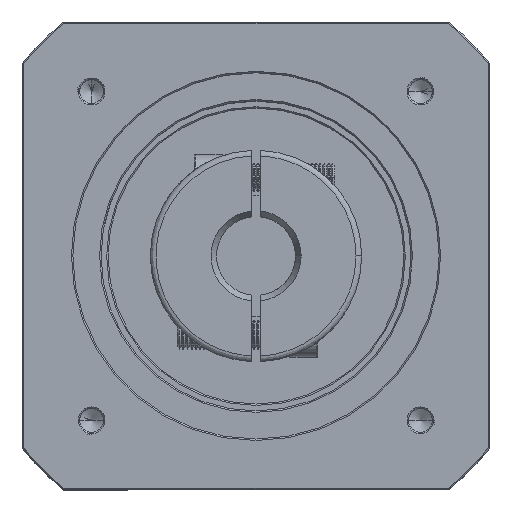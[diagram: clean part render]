
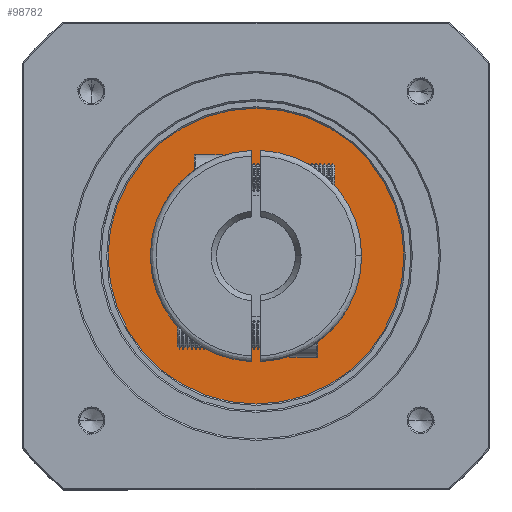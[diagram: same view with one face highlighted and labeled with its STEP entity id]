
A CAD part, top view. The second image highlights one B-rep face of the part: STEP entity #98782.
In plain terms, the highlighted planar face has unit normal (0, 0, 1).
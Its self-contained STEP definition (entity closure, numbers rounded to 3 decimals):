
#1704 = DIRECTION ( 'NONE',  ( -1., 0., 0. ) ) ;
#12298 = ORIENTED_EDGE ( 'NONE', *, *, #89596, .T. ) ;
#17337 = VERTEX_POINT ( 'NONE', #86679 ) ;
#19374 = CARTESIAN_POINT ( 'NONE',  ( -2.452, 29.911, 313.95 ) ) ;
#21595 = CARTESIAN_POINT ( 'NONE',  ( -2.452, -0.589, 313.95 ) ) ;
#21624 = AXIS2_PLACEMENT_3D ( 'NONE', #21595, #22510, #75763 ) ;
#21844 = PLANE ( 'NONE',  #60697 ) ;
#22510 = DIRECTION ( 'NONE',  ( 0., 0., -1. ) ) ;
#22901 = CIRCLE ( 'NONE', #41727, 52.5 ) ;
#25593 = FACE_BOUND ( 'NONE', #40621, .T. ) ;
#30791 = DIRECTION ( 'NONE',  ( -1., 0., 0. ) ) ;
#33568 = DIRECTION ( 'NONE',  ( 0., 0., -1. ) ) ;
#39445 = AXIS2_PLACEMENT_3D ( 'NONE', #91516, #81653, #93352 ) ;
#40621 = EDGE_LOOP ( 'NONE', ( #88877, #12298 ) ) ;
#41727 = AXIS2_PLACEMENT_3D ( 'NONE', #126243, #115969, #30791 ) ;
#48125 = VERTEX_POINT ( 'NONE', #94375 ) ;
#56609 = CIRCLE ( 'NONE', #39445, 30.5 ) ;
#57246 = EDGE_CURVE ( 'NONE', #99085, #48125, #56609, .T. ) ;
#59972 = EDGE_CURVE ( 'NONE', #134192, #17337, #22901, .T. ) ;
#60697 = AXIS2_PLACEMENT_3D ( 'NONE', #96610, #33568, #1704 ) ;
#70790 = CIRCLE ( 'NONE', #21624, 52.5 ) ;
#70824 = EDGE_CURVE ( 'NONE', #17337, #134192, #70790, .T. ) ;
#71711 = AXIS2_PLACEMENT_3D ( 'NONE', #84759, #138646, #73986 ) ;
#73986 = DIRECTION ( 'NONE',  ( 0., 1., 0. ) ) ;
#75763 = DIRECTION ( 'NONE',  ( -1., 0., 0. ) ) ;
#81653 = DIRECTION ( 'NONE',  ( 0., 0., -1. ) ) ;
#84759 = CARTESIAN_POINT ( 'NONE',  ( -2.452, -0.589, 313.95 ) ) ;
#84853 = CIRCLE ( 'NONE', #71711, 30.5 ) ;
#86679 = CARTESIAN_POINT ( 'NONE',  ( -54.952, -0.589, 313.95 ) ) ;
#88877 = ORIENTED_EDGE ( 'NONE', *, *, #57246, .T. ) ;
#89596 = EDGE_CURVE ( 'NONE', #48125, #99085, #84853, .T. ) ;
#91516 = CARTESIAN_POINT ( 'NONE',  ( -2.452, -0.589, 313.95 ) ) ;
#93352 = DIRECTION ( 'NONE',  ( 0., 1., 0. ) ) ;
#94144 = FACE_OUTER_BOUND ( 'NONE', #127390, .T. ) ;
#94375 = CARTESIAN_POINT ( 'NONE',  ( -2.452, -31.089, 313.95 ) ) ;
#96610 = CARTESIAN_POINT ( 'NONE',  ( -2.452, -0.589, 313.95 ) ) ;
#98782 = ADVANCED_FACE ( 'NONE', ( #25593, #94144 ), #21844, .F. ) ;
#99085 = VERTEX_POINT ( 'NONE', #19374 ) ;
#115969 = DIRECTION ( 'NONE',  ( 0., 0., -1. ) ) ;
#126243 = CARTESIAN_POINT ( 'NONE',  ( -2.452, -0.589, 313.95 ) ) ;
#127390 = EDGE_LOOP ( 'NONE', ( #137872, #128603 ) ) ;
#128603 = ORIENTED_EDGE ( 'NONE', *, *, #59972, .F. ) ;
#131794 = CARTESIAN_POINT ( 'NONE',  ( 50.048, -0.589, 313.95 ) ) ;
#134192 = VERTEX_POINT ( 'NONE', #131794 ) ;
#137872 = ORIENTED_EDGE ( 'NONE', *, *, #70824, .F. ) ;
#138646 = DIRECTION ( 'NONE',  ( 0., 0., -1. ) ) ;
